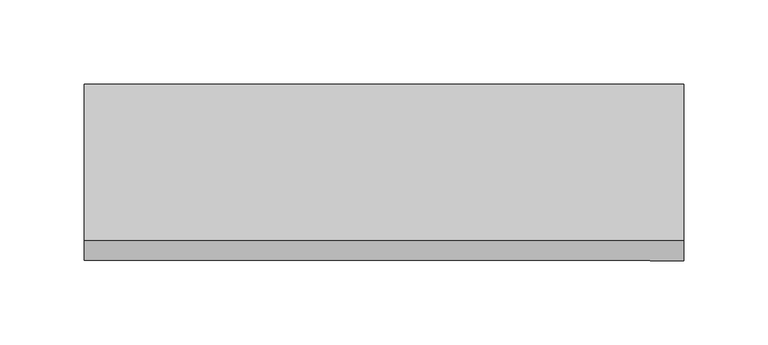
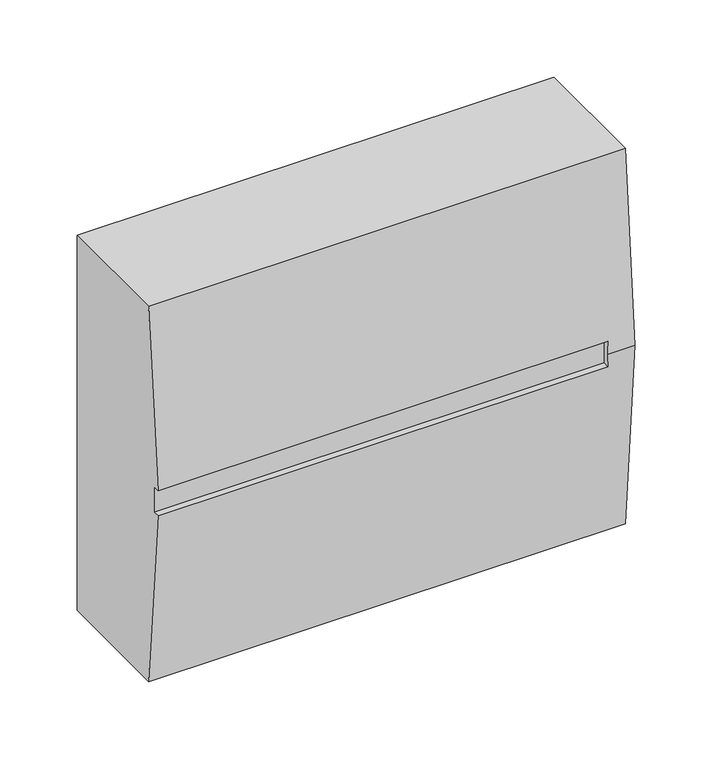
"""IFC4 building model written with IfcOpenShell, lengths in millimetres: proxy geometry, Ústředny.CC : JA-103K-7AH."""

from ifc_helpers import new_model, si_unit, frame, origin, place, context, project, spatial, circle_curve, source, transform, mapped, element, save
from ifc_brep_helpers import plane_surface, cylinder_surface, advanced_brep


def electrical_equipment_dd4fa642(model_context):
    return source(origin(), model_context, "Body", "AdvancedBrep", [
        advanced_brep(
        [(178.5, 0.0, -148.5), (178.5, 0.0, 148.5), (178.5, -93.0, 148.5), (178.5, -105.0, 0.0), (178.5, -93.0, -148.5), (-178.5, 0.0, -148.5), (-178.5, -93.0, -148.5), (-178.5, -104.9459352, -10.0), (-178.5, -100.0, -10.0), (-178.5, -100.0, 10.0), (-178.5, -104.9459352, 10.0), (-178.5, -93.0, 148.5), (-178.5, 0.0, 148.5), (158.5, -104.9459352, 10.0), (158.5, -105.0, 0.0), (158.5, -104.9459352, -10.0), (158.5, -100.0, 10.0), (158.5, -100.0, -10.0)],
        [
            (0, 1),
            (1, 2),
            (2, 3, circle_curve(frame((178.5, 819.84375, 0.0), z_axis=(1.0, 0.0, 0.0), x_axis=(0.0, 1.0, 0.0)), 924.84375)),
            (3, 4, circle_curve(frame((178.5, 819.84375, 0.0), z_axis=(1.0, 0.0, 0.0), x_axis=(0.0, 1.0, 0.0)), 924.84375)),
            (4, 0),
            (5, 6),
            (6, 7, circle_curve(frame((-178.5, 819.84375, 0.0), z_axis=(-1.0, 0.0, 0.0), x_axis=(0.0, 1.0, 0.0)), 924.84375)),
            (7, 8),
            (8, 9),
            (9, 10),
            (10, 11, circle_curve(frame((-178.5, 819.84375, 0.0), z_axis=(-1.0, 0.0, 0.0), x_axis=(0.0, 1.0, 0.0)), 924.84375)),
            (11, 12),
            (12, 5),
            (0, 5),
            (12, 1),
            (11, 2),
            (10, 13),
            (13, 14, circle_curve(frame((158.5, 819.84375, 0.0), z_axis=(1.0, 0.0, 0.0), x_axis=(0.0, 1.0, 0.0)), 924.84375)),
            (14, 3),
            (14, 15, circle_curve(frame((158.5, 819.84375, 0.0), z_axis=(1.0, 0.0, 0.0), x_axis=(0.0, 1.0, 0.0)), 924.84375)),
            (15, 7),
            (6, 4),
            (16, 17),
            (17, 15),
            (13, 16),
            (9, 16),
            (17, 8),
        ],
        [
            plane_surface(frame((178.5, 0.0, 148.5), z_axis=(1.0, 0.0, 0.0), x_axis=(0.0, 0.0, 1.0))),
            plane_surface(frame((-178.5, 0.0, 148.5), z_axis=(-1.0, 0.0, 0.0), x_axis=(0.0, 0.0, -1.0))),
            plane_surface(frame((178.5, 0.0, -148.5), z_axis=(0.0, 1.0, 0.0), x_axis=(-1.0, 0.0, 0.0))),
            plane_surface(frame((178.5, 0.0, 148.5), z_axis=(0.0, 0.0, 1.0), x_axis=(-1.0, 0.0, 0.0))),
            cylinder_surface(frame((-178.5, 819.84375, 0.0), z_axis=(1.0, 0.0, 0.0), x_axis=(0.0, 1.0, 0.0)), 924.84375),
            plane_surface(frame((178.5, -93.0, -148.5), z_axis=(0.0, 0.0, -1.0), x_axis=(-1.0, 0.0, 0.0))),
            plane_surface(frame((158.5, -115.0, 10.0), z_axis=(-1.0, 0.0, 0.0), x_axis=(0.0, -1.0, 0.0))),
            plane_surface(frame((158.5, -100.0, 10.0), z_axis=(0.0, 0.0, -1.0), x_axis=(-1.0, 0.0, 0.0))),
            plane_surface(frame((158.5, -115.0, -10.0), z_axis=(0.0, 0.0, 1.0), x_axis=(-1.0, 0.0, 0.0))),
            plane_surface(frame((158.5, -100.0, -10.0), z_axis=(0.0, -1.0, 0.0), x_axis=(-1.0, 0.0, 0.0))),
        ],
        [
            (0, [[1, 2, 3, 4, 5]]),
            (1, [[6, 7, 8, 9, 10, 11, 12, 13]]),
            (2, [[-1, 14, -13, 15]]),
            (3, [[-2, -15, -12, 16]]),
            (4, [[-3, -16, -11, 17, 18, 19]]),
            (4, [[-4, -19, 20, 21, -7, 22]]),
            (5, [[-5, -22, -6, -14]]),
            (6, [[23, 24, -20, -18, 25]]),
            (7, [[26, -25, -17, -10]]),
            (8, [[27, -8, -21, -24]]),
            (9, [[-23, -26, -9, -27]]),
        ],
    ),
    ])


if __name__ == "__main__":
    model = new_model("IFC4")
    model_context = context("Model", 3, world=origin())
    ifc_project = project(units=[si_unit("LENGTHUNIT", "METRE", prefix="MILLI")], contexts=[model_context])
    site = spatial("IfcSite", under=ifc_project)
    building = spatial("IfcBuilding", under=site)
    placement = place(None, origin())
    electrical_equipment_shape = electrical_equipment_dd4fa642(model_context)
    element("IfcBuildingElementProxy", 1, Name="Ústředny.CC : JA-103K-7AH", ObjectType="Ústředny.CC : JA-103K-7AH", at=placement, inside=building, context=model_context, shape_type="MappedRepresentation", body=[
        mapped(electrical_equipment_shape, transform((0.0, 0.0, 0.0), x_axis=(1.0, 0.0, 0.0), y_axis=(0.0, 1.0, 0.0), z_axis=(0.0, 0.0, 1.0))),
    ])
    save(model, "model.ifc")
